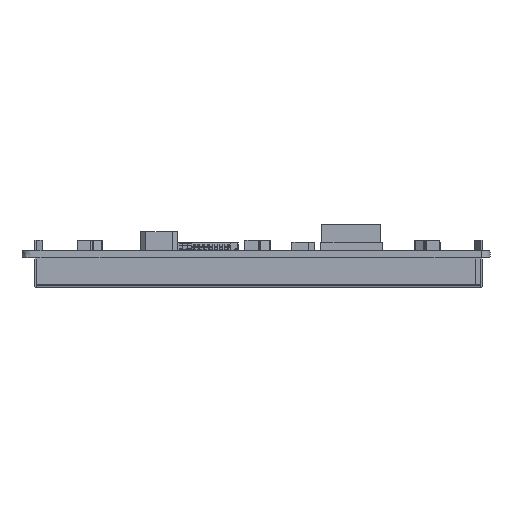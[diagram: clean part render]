
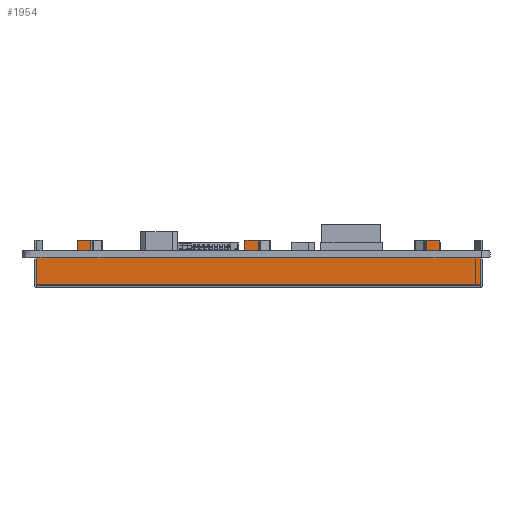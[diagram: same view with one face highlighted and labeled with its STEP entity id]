
A CAD part, left-side view. The second image highlights one B-rep face of the part: STEP entity #1954.
In plain terms, the highlighted planar face has unit normal (-1, 0, 0).
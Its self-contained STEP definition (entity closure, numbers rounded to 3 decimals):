
#1954=ADVANCED_FACE('',(#4095),#2920,.F.);
#2920=PLANE('',#25795);
#4095=FACE_OUTER_BOUND('',#5331,.T.);
#5331=EDGE_LOOP('',(#11840,#11841,#11842,#11843,#11844,#11845,#11846,#11847,
#11848,#11849,#11850,#11851,#11852,#11853,#11854,#11855,#11856,#11857,#11858));
#11840=ORIENTED_EDGE('',*,*,#18177,.T.);
#11841=ORIENTED_EDGE('',*,*,#18188,.T.);
#11842=ORIENTED_EDGE('',*,*,#18189,.F.);
#11843=ORIENTED_EDGE('',*,*,#18190,.T.);
#11844=ORIENTED_EDGE('',*,*,#18191,.F.);
#11845=ORIENTED_EDGE('',*,*,#18175,.T.);
#11846=ORIENTED_EDGE('',*,*,#18192,.T.);
#11847=ORIENTED_EDGE('',*,*,#18193,.F.);
#11848=ORIENTED_EDGE('',*,*,#18194,.F.);
#11849=ORIENTED_EDGE('',*,*,#18195,.T.);
#11850=ORIENTED_EDGE('',*,*,#18183,.T.);
#11851=ORIENTED_EDGE('',*,*,#18196,.T.);
#11852=ORIENTED_EDGE('',*,*,#18197,.F.);
#11853=ORIENTED_EDGE('',*,*,#18198,.F.);
#11854=ORIENTED_EDGE('',*,*,#18199,.T.);
#11855=ORIENTED_EDGE('',*,*,#18187,.T.);
#11856=ORIENTED_EDGE('',*,*,#18200,.F.);
#11857=ORIENTED_EDGE('',*,*,#18201,.F.);
#11858=ORIENTED_EDGE('',*,*,#18202,.T.);
#14931=VERTEX_POINT('',#38056);
#14933=VERTEX_POINT('',#38060);
#14934=VERTEX_POINT('',#38064);
#14936=VERTEX_POINT('',#38067);
#14939=VERTEX_POINT('',#38074);
#14941=VERTEX_POINT('',#38078);
#14943=VERTEX_POINT('',#38083);
#14945=VERTEX_POINT('',#38087);
#14946=VERTEX_POINT('',#38091);
#14947=VERTEX_POINT('',#38093);
#14948=VERTEX_POINT('',#38095);
#14949=VERTEX_POINT('',#38098);
#14950=VERTEX_POINT('',#38100);
#14951=VERTEX_POINT('',#38102);
#14952=VERTEX_POINT('',#38105);
#14953=VERTEX_POINT('',#38107);
#14954=VERTEX_POINT('',#38109);
#14955=VERTEX_POINT('',#38112);
#14956=VERTEX_POINT('',#38114);
#18175=EDGE_CURVE('',#14931,#14933,#21118,.T.);
#18177=EDGE_CURVE('',#14936,#14934,#21120,.T.);
#18183=EDGE_CURVE('',#14939,#14941,#21126,.T.);
#18187=EDGE_CURVE('',#14943,#14945,#21130,.T.);
#18188=EDGE_CURVE('',#14934,#14946,#21131,.T.);
#18189=EDGE_CURVE('',#14947,#14946,#21132,.T.);
#18190=EDGE_CURVE('',#14947,#14948,#21133,.T.);
#18191=EDGE_CURVE('',#14931,#14948,#21134,.T.);
#18192=EDGE_CURVE('',#14933,#14949,#21135,.T.);
#18193=EDGE_CURVE('',#14950,#14949,#21136,.T.);
#18194=EDGE_CURVE('',#14951,#14950,#21137,.T.);
#18195=EDGE_CURVE('',#14951,#14939,#21138,.T.);
#18196=EDGE_CURVE('',#14941,#14952,#21139,.T.);
#18197=EDGE_CURVE('',#14953,#14952,#21140,.T.);
#18198=EDGE_CURVE('',#14954,#14953,#21141,.T.);
#18199=EDGE_CURVE('',#14954,#14943,#21142,.T.);
#18200=EDGE_CURVE('',#14955,#14945,#21143,.T.);
#18201=EDGE_CURVE('',#14956,#14955,#21144,.T.);
#18202=EDGE_CURVE('',#14956,#14936,#21145,.T.);
#21118=LINE('',#38061,#23860);
#21120=LINE('',#38066,#23862);
#21126=LINE('',#38079,#23868);
#21130=LINE('',#38088,#23872);
#21131=LINE('',#38090,#23873);
#21132=LINE('',#38092,#23874);
#21133=LINE('',#38094,#23875);
#21134=LINE('',#38096,#23876);
#21135=LINE('',#38097,#23877);
#21136=LINE('',#38099,#23878);
#21137=LINE('',#38101,#23879);
#21138=LINE('',#38103,#23880);
#21139=LINE('',#38104,#23881);
#21140=LINE('',#38106,#23882);
#21141=LINE('',#38108,#23883);
#21142=LINE('',#38110,#23884);
#21143=LINE('',#38111,#23885);
#21144=LINE('',#38113,#23886);
#21145=LINE('',#38115,#23887);
#23860=VECTOR('',#31376,1.);
#23862=VECTOR('',#31380,1.);
#23868=VECTOR('',#31388,1.);
#23872=VECTOR('',#31394,1.);
#23873=VECTOR('',#31397,1.);
#23874=VECTOR('',#31398,1.);
#23875=VECTOR('',#31399,1.);
#23876=VECTOR('',#31400,1.);
#23877=VECTOR('',#31401,1.);
#23878=VECTOR('',#31402,1.);
#23879=VECTOR('',#31403,1.);
#23880=VECTOR('',#31404,1.);
#23881=VECTOR('',#31405,1.);
#23882=VECTOR('',#31406,1.);
#23883=VECTOR('',#31407,1.);
#23884=VECTOR('',#31408,1.);
#23885=VECTOR('',#31409,1.);
#23886=VECTOR('',#31410,1.);
#23887=VECTOR('',#31411,1.);
#25795=AXIS2_PLACEMENT_3D('',#38116,#31412,#31413);
#31376=DIRECTION('',(0.,1.,0.));
#31380=DIRECTION('',(0.,1.,0.));
#31388=DIRECTION('',(0.,1.,0.));
#31394=DIRECTION('',(0.,1.,0.));
#31397=DIRECTION('',(0.,0.,1.));
#31398=DIRECTION('',(0.,-1.,0.));
#31399=DIRECTION('',(0.,0.,-1.));
#31400=DIRECTION('',(0.,0.,1.));
#31401=DIRECTION('',(0.,0.,1.));
#31402=DIRECTION('',(0.,0.,-1.));
#31403=DIRECTION('',(0.,-1.,0.));
#31404=DIRECTION('',(0.,0.,-1.));
#31405=DIRECTION('',(0.,0.,1.));
#31406=DIRECTION('',(0.,0.,-1.));
#31407=DIRECTION('',(0.,-1.,0.));
#31408=DIRECTION('',(0.,0.,-1.));
#31409=DIRECTION('',(0.,0.,1.));
#31410=DIRECTION('',(0.,1.,0.));
#31411=DIRECTION('',(0.,0.,1.));
#31412=DIRECTION('',(1.,0.,0.));
#31413=DIRECTION('',(0.,-1.,0.));
#38056=CARTESIAN_POINT('',(435.624,-41.014,-1.6));
#38060=CARTESIAN_POINT('',(435.624,-3.188,-1.6));
#38061=CARTESIAN_POINT('',(435.624,-53.245,-1.6));
#38064=CARTESIAN_POINT('',(435.624,-44.038,-1.6));
#38066=CARTESIAN_POINT('',(435.624,-53.245,-1.6));
#38067=CARTESIAN_POINT('',(435.624,-53.245,-1.6));
#38074=CARTESIAN_POINT('',(435.624,-0.18,-1.6));
#38078=CARTESIAN_POINT('',(435.624,34.5,-1.6));
#38079=CARTESIAN_POINT('',(435.624,-53.245,-1.6));
#38083=CARTESIAN_POINT('',(435.624,37.54,-1.6));
#38087=CARTESIAN_POINT('',(435.624,46.775,-1.6));
#38088=CARTESIAN_POINT('',(435.624,-53.245,-1.6));
#38090=CARTESIAN_POINT('',(435.624,-44.038,-1.6));
#38091=CARTESIAN_POINT('',(435.624,-44.038,2.4));
#38092=CARTESIAN_POINT('',(435.624,-41.014,2.4));
#38093=CARTESIAN_POINT('',(435.624,-41.014,2.4));
#38094=CARTESIAN_POINT('',(435.624,-41.014,2.4));
#38095=CARTESIAN_POINT('',(435.624,-41.014,0.));
#38096=CARTESIAN_POINT('',(435.624,-41.014,-1.6));
#38097=CARTESIAN_POINT('',(435.624,-3.188,-1.6));
#38098=CARTESIAN_POINT('',(435.624,-3.188,0.));
#38099=CARTESIAN_POINT('',(435.624,-3.188,2.4));
#38100=CARTESIAN_POINT('',(435.624,-3.188,2.4));
#38101=CARTESIAN_POINT('',(435.624,-0.18,2.4));
#38102=CARTESIAN_POINT('',(435.624,-0.18,2.4));
#38103=CARTESIAN_POINT('',(435.624,-0.18,2.4));
#38104=CARTESIAN_POINT('',(435.624,34.5,-1.6));
#38105=CARTESIAN_POINT('',(435.624,34.5,0.));
#38106=CARTESIAN_POINT('',(435.624,34.5,2.4));
#38107=CARTESIAN_POINT('',(435.624,34.5,2.4));
#38108=CARTESIAN_POINT('',(435.624,37.54,2.4));
#38109=CARTESIAN_POINT('',(435.624,37.54,2.4));
#38110=CARTESIAN_POINT('',(435.624,37.54,2.4));
#38111=CARTESIAN_POINT('',(435.624,46.775,-7.9));
#38112=CARTESIAN_POINT('',(435.624,46.775,-7.9));
#38113=CARTESIAN_POINT('',(435.624,-53.245,-7.9));
#38114=CARTESIAN_POINT('',(435.624,-53.245,-7.9));
#38115=CARTESIAN_POINT('',(435.624,-53.245,-7.9));
#38116=CARTESIAN_POINT('',(435.624,-53.245,-7.9));
